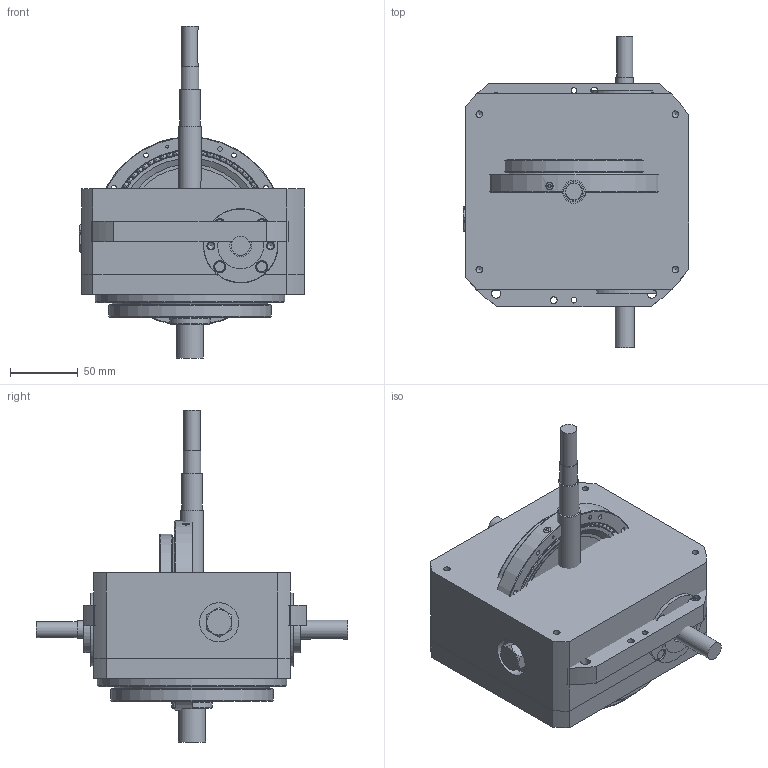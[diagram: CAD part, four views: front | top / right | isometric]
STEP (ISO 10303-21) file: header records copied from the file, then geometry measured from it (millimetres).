
FILE_DESCRIPTION( ( 'Unknown' ), '1' );
FILE_NAME( 'S:/TAVOLE/T10/Schemi/T10.stp', 'Unknown', ( 'Unknown' ), ( 'Unknown' ), 'XStep 1.0', 'Unknown', ' ' );
FILE_SCHEMA( ( 'CONFIG_CONTROL_DESIGN' ) );
Length unit declared in the file: millimetre
Products named in the file (17): Assem1; Assem2; 1; 2; 3; 4; 5; 6; 7; 8; 9; 10; 11; 12; 13; 14; 15
Bounding box: 167 x 230 x 245.5 mm (x, y, z)
Volume: 2522882.5 mm3; surface area: 650378.3 mm2
Topology: 189 solids, 189 shells, 1874 faces, 4495 edges, 2813 vertices
Faces by surface type: cylinder 821, plane 444, torus 218, sphere 185, cone 176, bspline 30
Full cylindrical faces by diameter (mm): 2 x15, 2.459 x3, 2.5 x28, 3 x4, 3.242 x18, 3.6 x36, 4 x4, 4.13 x16, 4.25 x12, 4.5 x6, 4.91 x16, 5 x34, 5.5 x8, 6 x54, 7 x10, 8 x12, 8.376 x2, 8.5 x9, 9 x14, 11.445 x2, 12 x2, 13 x5, 13.4 x2, 13.8 x2, 14 x2, 15 x6, 16 x3, 17 x2, 18.2 x2, 20 x2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
Entity records: 25284 total; most frequent: CARTESIAN_POINT 7606, DIRECTION 3835, ORIENTED_EDGE 2910, AXIS2_PLACEMENT_3D 1688, EDGE_CURVE 1455, EDGE_LOOP 1163, VERTEX_POINT 1053, FACE_OUTER_BOUND 924
